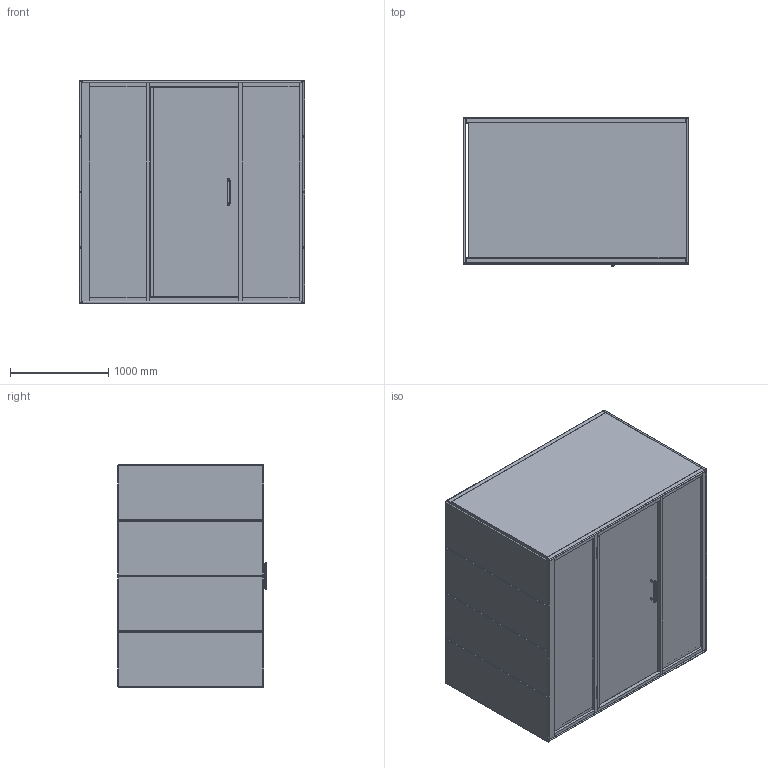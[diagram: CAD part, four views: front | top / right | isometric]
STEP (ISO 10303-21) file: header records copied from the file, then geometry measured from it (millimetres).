
FILE_DESCRIPTION(/* description */ ('','CAx-IF Rec.Pracs.---Representation and Presentation of Product Manufacturing Information (PMI)---4.0---2014-10-13'),/* implementation_level */ '2;1');
FILE_NAME(/* name */ 'CHAT4_step.step',/* time_stamp */ '2024-11-29T12:24:10+01:00',/* author */ (''),/* organization */ (''),/* preprocessor_version */ 'ST-DEVELOPER v20',/* originating_system */ 'Autodesk Translation Framework v13.20.0.188',/* authorisation */ '');
FILE_SCHEMA (('AP242_MANAGED_MODEL_BASED_3D_ENGINEERING_MIM_LF { 1 0 10303 442 1 1 4 }'));
Products named in the file (121): GEN4_CHAT4_EXPORT_FINAL_FBX; Podlaha - sestava; Component178; Strop - sestava; Component179; Obklady EX - sestava; Talk II obklady EX sestava v24; TALK 4_OBKLAD EX_LEM v15; SINGL Lem v4(Mirror); Component2(Mirror) (1) (1); TALK 4_OBKLAD EX_LEM v15 (1); LATKA; CHAT4_OBKLADY EX_SESTAVA; 7.1-F,CH4G4; 7.1-F,CH4G4_1; 7.1-F,CH4G4_2; 7.1-F,CH4G4_3; 7.1-F,CH4G4_1_1; 7.1-F,CH4G4_2_1; 7.1-F,CH4G4_3_1; 7.1-F,CH4G4_4; 7.1.2_F,T4G4; CHAT4_OBKLAD IN_SESTAVA Copy; 6.2-F,CH4G4; 6.3-F,CH4G4; 6.1_F,CHG4; 6.1.2_F,CHG4; 6.4-F,CH4G4; 6.4.2-F,CH4G4; 6.5-F,CH4GEN4; 6.5.2-F,CH4GEN4; 6.2-F,CH4G4_1; 6.2-F,CH4G4_2; 6.2.2-F,CH4G4; 6.3-F,CH4G4_1; 6.3.1-F,CH4G4_1; 6.1-CH4G4; 6.1.3-CH4G4; Component108; GEN4_CHAT4_EXPORT_FINAL_Rám přední 
v1 ...
Assembly tree (179 placements, depth 7):
  GEN4_CHAT4_EXPORT_FINAL_FBX
    Podlaha - sestava
      Component178
    Strop - sestava
      Component179
    Obklady EX - sestava
      Talk II obklady EX sestava v24
        TALK 4_OBKLAD EX_LEM v15
          LATKA
        SINGL Lem v4(Mirror)
          Component2(Mirror) (1) (1)  x2
        TALK 4_OBKLAD EX_LEM v15 (1)
          LATKA
      CHAT4_OBKLADY EX_SESTAVA
        7.1-F,CH4G4
          7.1.2_F,T4G4
        7.1-F,CH4G4_1
          7.1.2_F,T4G4
        7.1-F,CH4G4_2
          7.1.2_F,T4G4
        7.1-F,CH4G4_3
          7.1.2_F,T4G4
        7.1-F,CH4G4_1_1
          7.1.2_F,T4G4
        7.1-F,CH4G4_2_1
          7.1.2_F,T4G4
        7.1-F,CH4G4_3_1
          7.1.2_F,T4G4
        7.1-F,CH4G4_4
          7.1.2_F,T4G4
    CHAT4_OBKLAD IN_SESTAVA Copy
      6.2-F,CH4G4
        6.2.2-F,CH4G4
      6.3-F,CH4G4
        6.3.1-F,CH4G4_1
      6.1_F,CHG4
        6.1.2_F,CHG4
      6.4-F,CH4G4
        6.4.2-F,CH4G4
      6.1-CH4G4  x2
        6.1.3-CH4G4
      6.5-F,CH4GEN4
        6.5.2-F,CH4GEN4
      6.2-F,CH4G4_1
        6.2.2-F,CH4G4
      6.2-F,CH4G4_2
        6.2.2-F,CH4G4
      6.3-F,CH4G4_1
        6.3.1-F,CH4G4_1
      Component108  x2
    GEN4_CHAT4_EXPORT_FINAL_Rám přední 
v1
      TALK MOG3 rám prední v6 (1)
        TALK_RAM DVERE_SKLO (1)  x2
      GEN4_CHAT2_EXPORT_FINAL_FBX_TALK_KOMPONENTY_SKLO DVERE (1) v1
      CHAT2_RAM PREDNI
        5.0-CHG4
          5.1-CHG4
          5.2-CHG4
          5.5-CHG4
          5.6-CHG4
Bounding box: 2296 x 1514 x 2266 mm (x, y, z)
Volume: 547656835 mm3; surface area: 91831021.9 mm2
Topology: 126 solids, 134 shells, 2494 faces, 5844 edges, 3680 vertices
Faces by surface type: plane 1320, cylinder 768, bspline 164, sphere 132, cone 58, torus 52
Full cylindrical faces by diameter (mm): 2 x2, 4 x8, 5.3 x2, 5.5 x64, 5.65 x6, 6 x8, 7 x28, 8 x4, 8.3 x2, 10 x3, 20 x10, 32 x16, 33 x15, 35 x16, 36 x6, 40 x2, 44.12 x8, 44.8 x4, 44.87 x4, 45.27 x4, 45.524 x4, 70 x2, 76 x2, 80 x16
Entity records: 63226 total; most frequent: CARTESIAN_POINT 30196, DIRECTION 6604, ORIENTED_EDGE 6134, EDGE_CURVE 3067, AXIS2_PLACEMENT_3D 2335, VERTEX_POINT 1972, LINE 1934, VECTOR 1934
